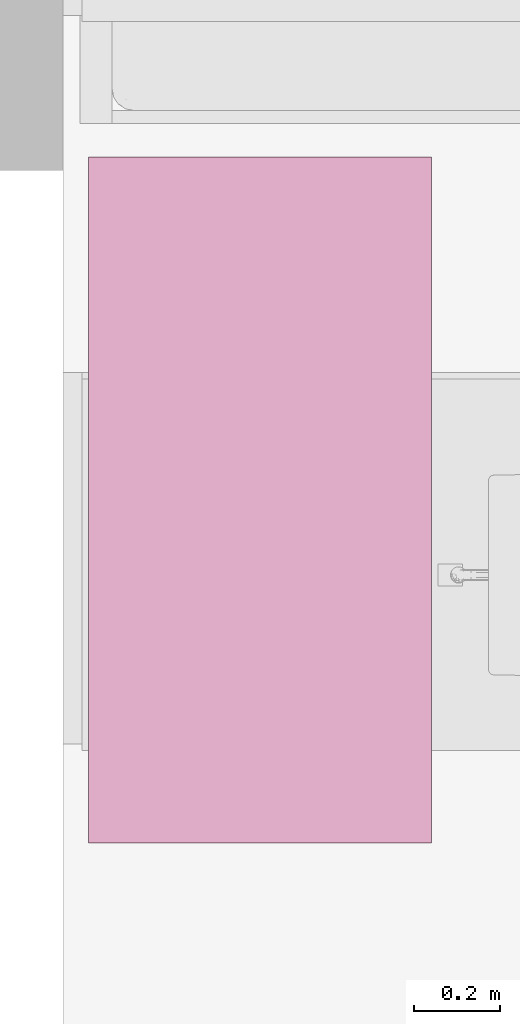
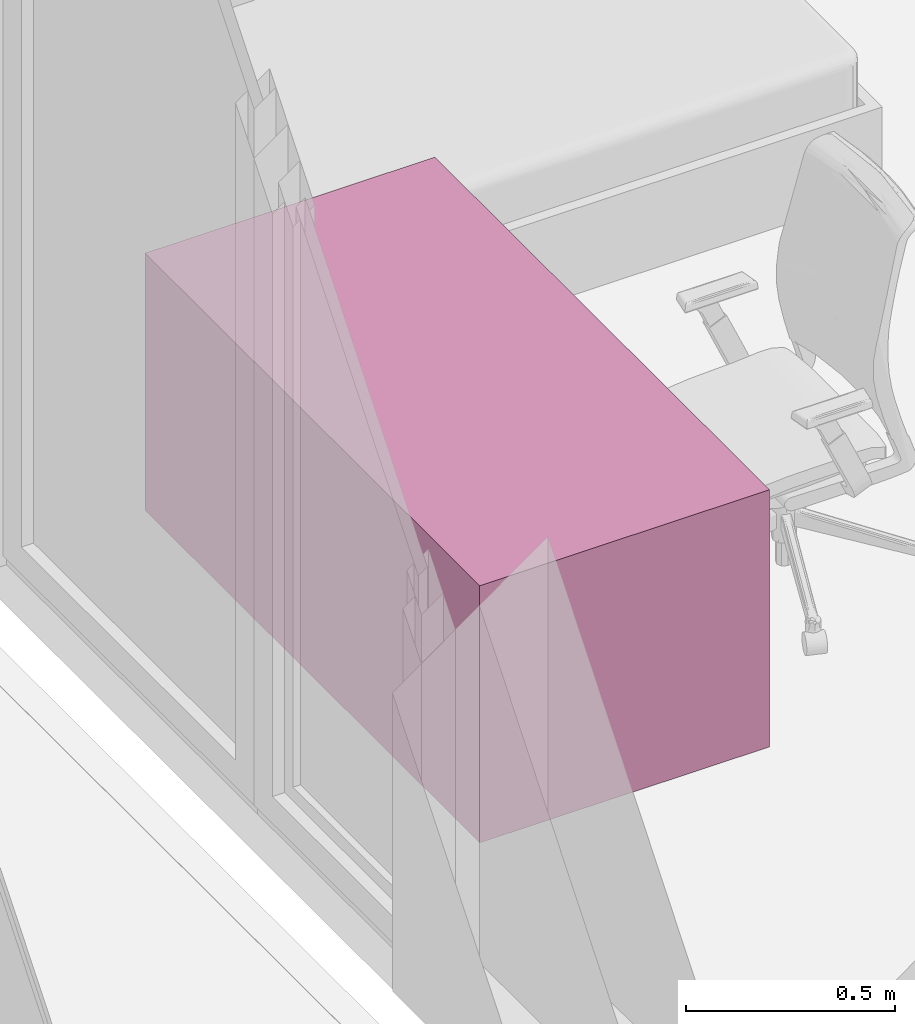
# One storey, part 33 of 57: 1 furnishing.
"""IFC2X3 building model written with IfcOpenShell, lengths in millimetres."""

from ifc_helpers import new_model, entity, si_unit, converted_unit, direction, frame, frame_2d, origin, place, context, subcontext, project, spatial, rectangle, extrude, source, transform, mapped, material, type_object, type_shapes, element, save


model = new_model("IFC2X3")

# Units and contexts
model_context = context("Model", 3, precision=0.01, world=origin(), true_north=direction((6.123233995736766e-17, 1.0)))
plan_context = context("Plan", 3, precision=0.01, world=origin(), true_north=direction((6.123233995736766e-17, 1.0)))
body_context = subcontext(model_context, "Body", "Model", "MODEL_VIEW")
ifc_project = project(units=[si_unit("LENGTHUNIT", "METRE", prefix="MILLI"), converted_unit("PLANEANGLEUNIT", "DEGREE", entity("IfcPlaneAngleMeasure", 0.017453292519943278), si_unit("PLANEANGLEUNIT", "RADIAN"), dimensions=[0, 0, 0, 0, 0, 0, 0]), si_unit("AREAUNIT", "SQUARE_METRE")], contexts=[model_context, plan_context])

# Site, building, storey, space
site_placement = place(None, origin())
site = spatial("IfcSite", under=ifc_project, at=site_placement, Name="Default", CompositionType="ELEMENT")
building_placement = place(site_placement, origin())
building = spatial("IfcBuilding", under=site, at=building_placement, CompositionType="ELEMENT")
storey_placement = place(building_placement, frame((0.0, 0.0, 12811.000000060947)))
storey = spatial("IfcBuildingStorey", under=building, at=storey_placement, Name="5K", CompositionType="ELEMENT", Elevation=12811.000000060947)
space_placement = place(storey_placement, origin())
space = spatial("IfcSpace", under=storey, at=space_placement, Name="5-12.13", CompositionType="ELEMENT", InteriorOrExteriorSpace="INTERNAL")

# Furnishing
ifc_material = material(Name="<Unnamed>")
furniture_type = type_object("IfcFurnitureType", Name="HR_Furniture_Office-desk_Placeholder_v2:Default", AssemblyPlace="NOTDEFINED", material=ifc_material)
shared_shape = source(origin(), body_context, "Body", "SweptSolid", [
    extrude(rectangle(XDim=800.0, YDim=1600.0000000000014, at=frame_2d((-1.2789769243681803e-12, -2.8421709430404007e-13), x_axis=(1.0, 0.0))), frame((-800.0, -400.0, 0.0), z_axis=(0.0, 0.0, 1.0), x_axis=(0.0, 1.0, 0.0)), (0.0, 0.0, 1.0), 750.0),
])
type_shapes(furniture_type, [shared_shape])
furnishing_placement = place(space_placement, frame((60.0, 14281.0, 0.0), z_axis=(0.0, 0.0, 1.0), x_axis=(0.0, 1.0, 0.0)))
element("IfcFurnishingElement", 1, at=furnishing_placement, inside=space, type_object=furniture_type, material=ifc_material, Name="HR_Furniture_Office-desk_Placeholder_v2:Default", ObjectType="HR_Furniture_Office-desk_Placeholder_v2:Default", context=body_context, shape_type="MappedRepresentation", body=[
    mapped(shared_shape, transform((0.0, 0.0, 0.0), scale=1.0)),
])

save(model, "model.ifc")
